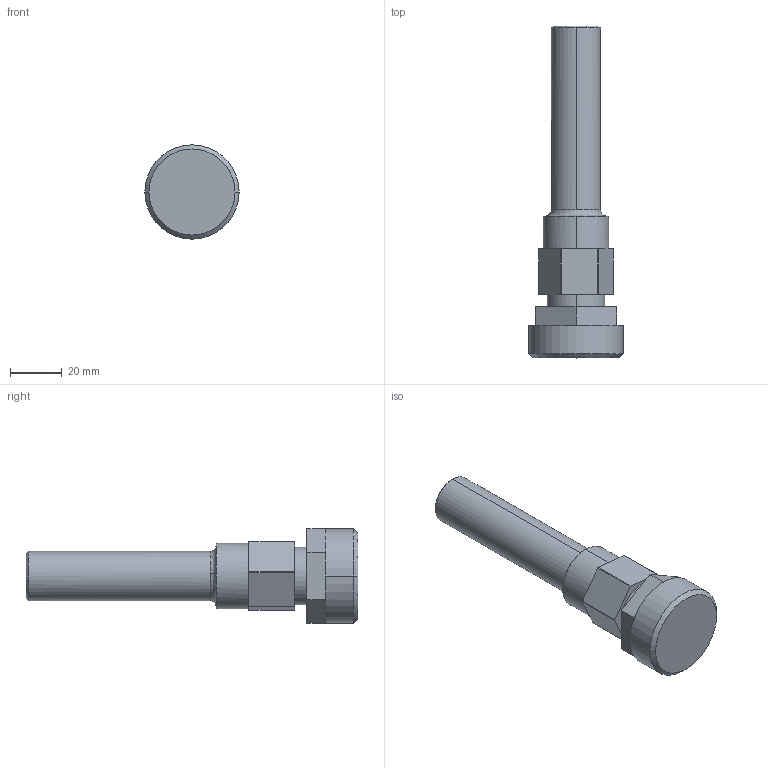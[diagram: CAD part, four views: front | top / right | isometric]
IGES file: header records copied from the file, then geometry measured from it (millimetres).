
Start section: SolidWorks IGES file using analytic representation for surfaces
Global section: file name: S:\Product Visuals\REVISED-30L-TOP-MOUNT-FITTINGS\IGS\top-straight-outlet-only\tubeout\12-tube-out-with-top-mount-adapter.IGS; native system: SolidWorks 2012; preprocessor: SolidWorks 2012; author: Rachel.Dressel; date: 121128.081034; units: inch
Bounding box: 36.6 x 128.85 x 36.66 mm (x, y, z)
Volume: 58738.3 mm3; surface area: 11815 mm2
Topology: 1 solids, 1 shells, 55 faces, 128 edges, 78 vertices
Faces by surface type: plane 35, revolution 18, bspline 2
